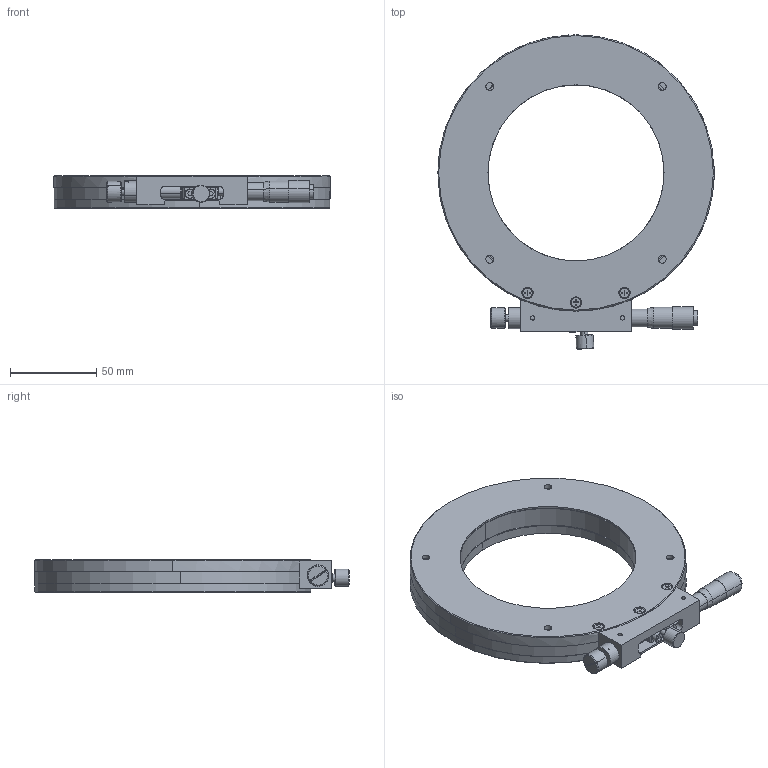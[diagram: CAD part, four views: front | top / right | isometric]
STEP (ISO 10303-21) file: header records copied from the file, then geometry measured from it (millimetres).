
FILE_DESCRIPTION (( 'STEP AP214' ), '1' );
FILE_NAME ('PT-SR160.STEP', '2023-05-07T08:48:48', ( '' ), ( '' ), 'SwSTEP 2.0', 'SolidWorks 2017', '' );
FILE_SCHEMA (( 'AUTOMOTIVE_DESIGN' ));
Length unit declared in the file: millimetre
Products named in the file (2): PT-SR160
Bounding box: 160 x 182.11 x 19 mm (x, y, z)
Volume: 224010.9 mm3; surface area: 136891.8 mm2
Topology: 27 solids, 27 shells, 1041 faces, 2648 edges, 1704 vertices
Faces by surface type: plane 363, cylinder 331, bspline 271, cone 76
Entity records: 62585 total; most frequent: CARTESIAN_POINT 27157, ORIENTED_EDGE 5232, DIRECTION 4321, EDGE_CURVE 2616, VERTEX_POINT 1704, AXIS2_PLACEMENT_3D 1635, EDGE_LOOP 1206, UNCERTAINTY_MEASURE_WITH_UNIT 1070
